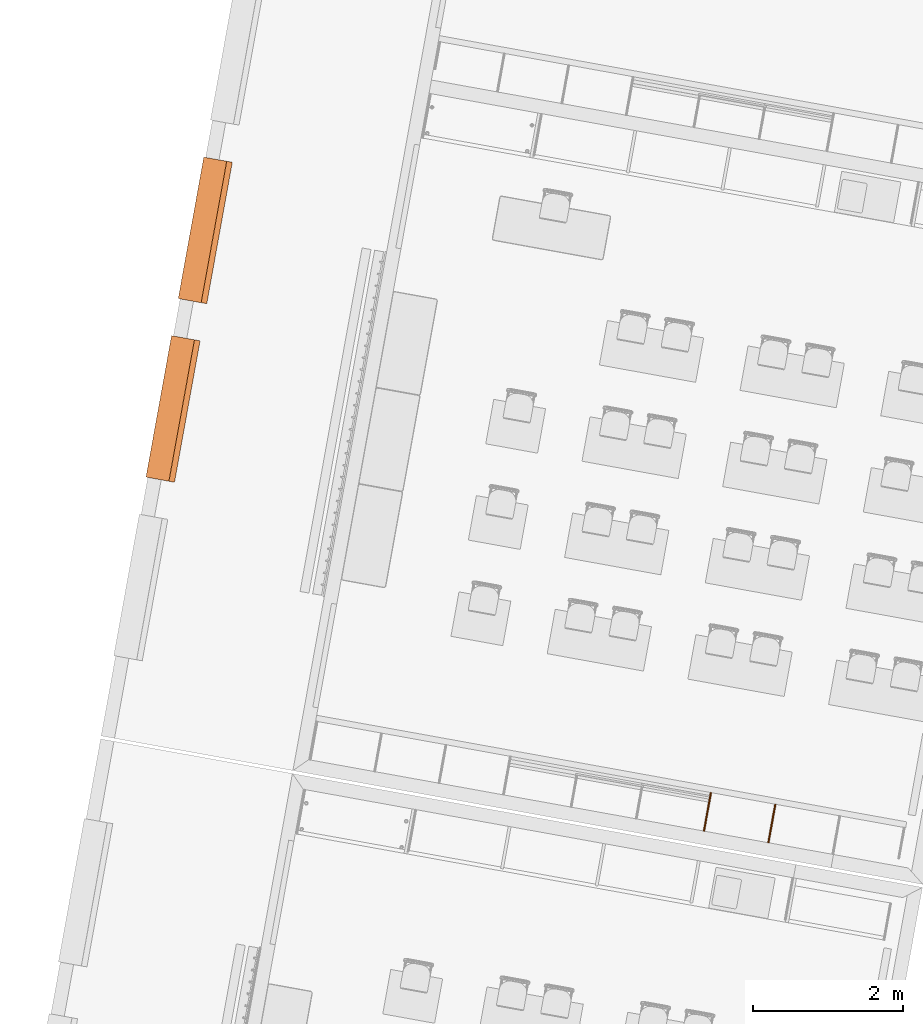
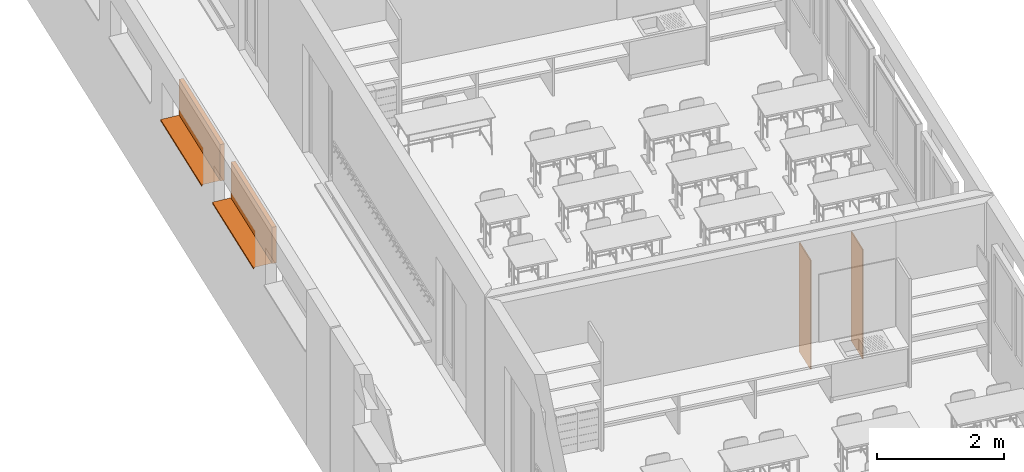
# One storey, part 42 of 79: 4 proxies.
"""IFC2X3 building model written with IfcOpenShell, lengths in metres."""

from ifc_helpers import new_model, entity, si_unit, converted_unit, derived_unit, money_unit, direction, frame, origin_with_axes, place, context, subcontext, project, spatial, polyline, outline, extrude, open_shell, faceted_brep, surface_model, source, transform, mapped, material, type_object, element, save


model = new_model("IFC2X3")

# Units and contexts
model_context = context("Model", 3, precision=1e-05, world=origin_with_axes(), true_north=direction((0.0, 1.0)))
body_context = subcontext(model_context, "Body", "Model", "MODEL_VIEW")
ifc_project = project(units=[si_unit("LENGTHUNIT", "METRE"), si_unit("AREAUNIT", "SQUARE_METRE"), si_unit("VOLUMEUNIT", "CUBIC_METRE"), converted_unit("PLANEANGLEUNIT", "DEGREE", entity("IfcPlaneAngleMeasure", 0.0174532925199), si_unit("PLANEANGLEUNIT", "RADIAN"), dimensions=[0, 0, 0, 0, 0, 0, 0]), money_unit("CHF"), converted_unit("TIMEUNIT", "Year", entity("IfcTimeMeasure", 31556926.0), si_unit("TIMEUNIT", "SECOND"), dimensions=[0, 0, 1, 0, 0, 0, 0]), si_unit("MASSUNIT", "GRAM", prefix="KILO"), si_unit("THERMODYNAMICTEMPERATUREUNIT", "DEGREE_CELSIUS"), si_unit("LUMINOUSINTENSITYUNIT", "LUMEN"), si_unit("ENERGYUNIT", "JOULE", prefix="MEGA"), derived_unit("THERMALCONDUCTANCEUNIT", [(si_unit("POWERUNIT", "WATT"), 1), (si_unit("LENGTHUNIT", "METRE"), -1), (si_unit("THERMODYNAMICTEMPERATUREUNIT", "KELVIN"), -1)]), derived_unit("SPECIFICHEATCAPACITYUNIT", [(si_unit("ENERGYUNIT", "JOULE"), 1), (si_unit("MASSUNIT", "GRAM", prefix="KILO"), -1), (si_unit("THERMODYNAMICTEMPERATUREUNIT", "KELVIN"), -1)]), derived_unit("MASSDENSITYUNIT", [(si_unit("MASSUNIT", "GRAM", prefix="KILO"), 1), (si_unit("VOLUMEUNIT", "CUBIC_METRE"), -1)])], contexts=[model_context])

# Site, building, storey
site_placement = place(None, frame((0.0, 0.0, 0.0), z_axis=(0.0, 0.0, 1.0), x_axis=(-0.177771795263, -0.984071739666, 0.0)))
site = spatial("IfcSite", under=ifc_project, at=site_placement, Name="Site", CompositionType="ELEMENT")
building_placement = place(site_placement, origin_with_axes())
building = spatial("IfcBuilding", under=site, at=building_placement, Name="Bâtiment", CompositionType="ELEMENT")
storey_placement = place(building_placement, origin_with_axes())
storey = spatial("IfcBuildingStorey", under=building, at=storey_placement, Name="RDC", CompositionType="ELEMENT", Elevation=0.0)

# Proxies
ifc_material_1 = material(Name="Matériau de construction IFC")
building_element_proxy_type_1 = type_object("IfcBuildingElementProxyType", Name="Fenêtre variable 21", PredefinedType="NOTDEFINED")
shared_shape = source(origin_with_axes(), body_context, "Body", "SurfaceModel", [
    surface_model("IfcShellBasedSurfaceModel", [(0.0, 0.284, 0.02), (0.0, 0.284, 0.01), (1.91, 0.284, 0.01), (1.91, 0.284, 0.02), (0.0, -0.025, -0.00087719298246), (1.91, -0.025, -0.00087719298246), (0.0, -0.025, -0.0308771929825), (1.91, -0.025, -0.0308771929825), (0.0, -0.0125, -0.0183771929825), (1.91, -0.0125, -0.0183771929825)], [open_shell([[[0, 1, 2, 3]], [[1, 4, 5, 2]], [[4, 6, 7, 5]], [[6, 8, 9, 7]]])]),
    faceted_brep([(0.075, 0.285, 0.625), (0.075, 0.36, 0.625), (0.0, 0.36, 0.625), (0.0, 0.285, 0.625), (0.075, 0.285, 0.075), (0.075, 0.36, 0.075), (0.0, 0.36, 0.075), (0.0, 0.285, 0.075)], [[[0, 1, 2, 3]], [[4, 5, 1, 0]], [[1, 5, 6, 2]], [[3, 2, 6, 7]], [[0, 3, 7, 4]], [[7, 6, 5, 4]]]),
    faceted_brep([(1.835, 0.285, 0.075), (1.835, 0.36, 0.075), (1.91, 0.36, 0.075), (1.91, 0.285, 0.075), (1.835, 0.285, 0.625), (1.835, 0.36, 0.625), (1.91, 0.36, 0.625), (1.91, 0.285, 0.625)], [[[0, 1, 2, 3]], [[4, 5, 1, 0]], [[1, 5, 6, 2]], [[3, 2, 6, 7]], [[0, 3, 7, 4]], [[7, 6, 5, 4]]]),
    faceted_brep([(0.075, 0.285, 0.075), (0.075, 0.36, 0.075), (0.0, 0.36, 0.075), (0.0, 0.285, 0.075), (1.835, 0.285, 0.075), (1.835, 0.36, 0.075), (1.91, 0.36, 0.075), (1.91, 0.36, 0.0), (0.0, 0.36, 0.0), (0.0, 0.285, 0.0), (1.91, 0.285, 0.0), (1.91, 0.285, 0.075)], [[[0, 1, 2, 3]], [[4, 5, 1, 0]], [[1, 5, 6, 7, 8, 2]], [[3, 2, 8, 9]], [[0, 3, 9, 10, 11, 4]], [[11, 6, 5, 4]], [[10, 7, 6, 11]], [[9, 8, 7, 10]]]),
    faceted_brep([(1.835, 0.285, 0.625), (1.835, 0.36, 0.625), (1.91, 0.36, 0.625), (1.91, 0.285, 0.625), (0.075, 0.285, 0.625), (0.075, 0.36, 0.625), (0.0, 0.36, 0.625), (0.0, 0.36, 0.7), (1.91, 0.36, 0.7), (1.91, 0.285, 0.7), (0.0, 0.285, 0.7), (0.0, 0.285, 0.625)], [[[0, 1, 2, 3]], [[4, 5, 1, 0]], [[1, 5, 6, 7, 8, 2]], [[3, 2, 8, 9]], [[0, 3, 9, 10, 11, 4]], [[11, 6, 5, 4]], [[10, 7, 6, 11]], [[9, 8, 7, 10]]]),
    surface_model("IfcShellBasedSurfaceModel", [(0.075, 0.285, 0.075), (1.835, 0.285, 0.075), (1.835, 0.285, 0.625), (0.075, 0.285, 0.625)], [open_shell([[[0, 1, 2, 3]]])]),
    surface_model("IfcShellBasedSurfaceModel", [(0.075, 0.305, 0.075), (0.075, 0.305, 0.625), (1.835, 0.305, 0.625), (1.835, 0.305, 0.075)], [open_shell([[[0, 1, 2, 3]]])]),
])
for number, where, z_axis, x_axis, name in (
    (1, (123.063174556, -159.217107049, 1.7), (0.0, 0.0, 1.0), (1.0, 0.0, 0.0), "Fen couloir"),
    (2, (120.65150789, -159.217107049, 1.7), (0.0, 0.0, 1.0), (1.0, 0.0, 0.0), "Fen couloir"),
):
    element("IfcBuildingElementProxy", number, at=place(storey_placement, frame(where, z_axis=z_axis, x_axis=x_axis)), inside=storey, type_object=building_element_proxy_type_1, material=ifc_material_1, Name=name, context=body_context, shape_type="MappedRepresentation", body=[
        mapped(shared_shape, transform((0.0, 0.0, 0.0))),
    ])
ifc_material_2 = material(Name="_panneau mélaminé")
building_element_proxy_type_2 = type_object("IfcBuildingElementProxyType", Name="_panneau mélaminé 19", PredefinedType="NOTDEFINED")
proxy_1_placement = place(storey_placement, frame((128.284841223, -151.107651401, 0.0), z_axis=(0.0, 0.0, 1.0), x_axis=(-1.0, 0.0, 0.0)))
element("IfcBuildingElementProxy", 3, at=proxy_1_placement, inside=storey, type_object=building_element_proxy_type_2, material=ifc_material_2, Name="cloison pl-classe", context=body_context, shape_type="SweptSolid", body=[
    extrude(outline(polyline([(0.0, -0.0095), (0.519999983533, -0.0095), (0.519999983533, 0.0095), (0.0, 0.0095), (0.0, -0.0095)])), origin_with_axes(), (0.0, 0.0, 1.0), 2.1),
])
proxy_2_placement = place(storey_placement, frame((128.28484124, -150.237651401, 0.0), z_axis=(0.0, 0.0, 1.0), x_axis=(-1.0, 0.0, 0.0)))
element("IfcBuildingElementProxy", 4, at=proxy_2_placement, inside=storey, type_object=building_element_proxy_type_2, material=ifc_material_2, Name="cloison pl-classe", context=body_context, shape_type="SweptSolid", body=[
    extrude(outline(polyline([(0.0, -0.0095), (0.519999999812, -0.0095), (0.519999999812, 0.0095), (0.0, 0.0095), (0.0, -0.0095)])), origin_with_axes(), (0.0, 0.0, 1.0), 2.1),
])

save(model, "model.ifc")
